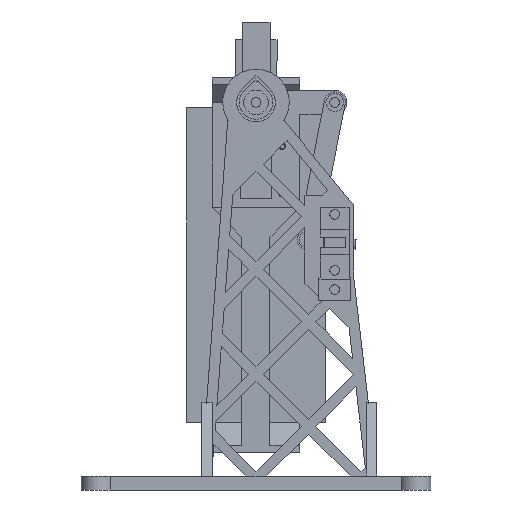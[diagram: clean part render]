
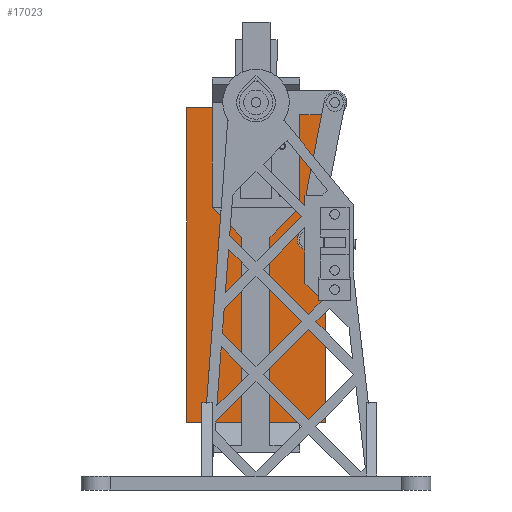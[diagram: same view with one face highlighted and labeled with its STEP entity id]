
A CAD part, front view. The second image highlights one B-rep face of the part: STEP entity #17023.
In plain terms, the highlighted planar face has unit normal (0, -1, 0).
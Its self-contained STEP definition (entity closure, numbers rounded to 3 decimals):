
#16807 = EDGE_CURVE('',#16808,#16810,#16812,.T.);
#16808 = VERTEX_POINT('',#16809);
#16809 = CARTESIAN_POINT('',(-39.545,35.5,38.566));
#16810 = VERTEX_POINT('',#16811);
#16811 = CARTESIAN_POINT('',(-39.501,35.5,218.566));
#16812 = SURFACE_CURVE('',#16813,(#16817,#16829),.PCURVE_S1.);
#16813 = LINE('',#16814,#16815);
#16814 = CARTESIAN_POINT('',(-39.545,35.5,38.566));
#16815 = VECTOR('',#16816,1.);
#16816 = DIRECTION('',(0.,0.,1.));
#16817 = PCURVE('',#16818,#16823);
#16818 = PLANE('',#16819);
#16819 = AXIS2_PLACEMENT_3D('',#16820,#16821,#16822);
#16820 = CARTESIAN_POINT('',(-39.545,35.5,38.566));
#16821 = DIRECTION('',(1.,0.,0.));
#16822 = DIRECTION('',(0.,0.,1.));
#16823 = DEFINITIONAL_REPRESENTATION('',(#16824),#16828);
#16824 = LINE('',#16825,#16826);
#16825 = CARTESIAN_POINT('',(0.,0.));
#16826 = VECTOR('',#16827,1.);
#16827 = DIRECTION('',(1.,0.));
#16828 = ( GEOMETRIC_REPRESENTATION_CONTEXT(2) 
PARAMETRIC_REPRESENTATION_CONTEXT() REPRESENTATION_CONTEXT('2D SPACE',''
  ) );
#16829 = PCURVE('',#16830,#16835);
#16830 = PLANE('',#16831);
#16831 = AXIS2_PLACEMENT_3D('',#16832,#16833,#16834);
#16832 = CARTESIAN_POINT('',(-39.545,35.5,38.566));
#16833 = DIRECTION('',(0.,1.,0.));
#16834 = DIRECTION('',(0.,0.,1.));
#16835 = DEFINITIONAL_REPRESENTATION('',(#16836),#16840);
#16836 = LINE('',#16837,#16838);
#16837 = CARTESIAN_POINT('',(0.,0.));
#16838 = VECTOR('',#16839,1.);
#16839 = DIRECTION('',(1.,0.));
#16840 = ( GEOMETRIC_REPRESENTATION_CONTEXT(2) 
PARAMETRIC_REPRESENTATION_CONTEXT() REPRESENTATION_CONTEXT('2D SPACE',''
  ) );
#16858 = PLANE('',#16859);
#16859 = AXIS2_PLACEMENT_3D('',#16860,#16861,#16862);
#16860 = CARTESIAN_POINT('',(-39.545,35.5,38.566));
#16861 = DIRECTION('',(0.,0.,1.));
#16862 = DIRECTION('',(1.,0.,0.));
#16912 = PLANE('',#16913);
#16913 = AXIS2_PLACEMENT_3D('',#16914,#16915,#16916);
#16914 = CARTESIAN_POINT('',(-39.501,35.5,218.566));
#16915 = DIRECTION('',(0.,0.,1.));
#16916 = DIRECTION('',(1.,0.,0.));
#16927 = EDGE_CURVE('',#16928,#16930,#16932,.T.);
#16928 = VERTEX_POINT('',#16929);
#16929 = CARTESIAN_POINT('',(39.455,35.5,38.547));
#16930 = VERTEX_POINT('',#16931);
#16931 = CARTESIAN_POINT('',(39.499,35.5,218.547));
#16932 = SURFACE_CURVE('',#16933,(#16937,#16949),.PCURVE_S1.);
#16933 = LINE('',#16934,#16935);
#16934 = CARTESIAN_POINT('',(39.455,35.5,38.547));
#16935 = VECTOR('',#16936,1.);
#16936 = DIRECTION('',(0.,0.,1.));
#16937 = PCURVE('',#16938,#16943);
#16938 = PLANE('',#16939);
#16939 = AXIS2_PLACEMENT_3D('',#16940,#16941,#16942);
#16940 = CARTESIAN_POINT('',(39.455,35.5,38.547));
#16941 = DIRECTION('',(1.,0.,0.));
#16942 = DIRECTION('',(0.,0.,1.));
#16943 = DEFINITIONAL_REPRESENTATION('',(#16944),#16948);
#16944 = LINE('',#16945,#16946);
#16945 = CARTESIAN_POINT('',(0.,0.));
#16946 = VECTOR('',#16947,1.);
#16947 = DIRECTION('',(1.,0.));
#16948 = ( GEOMETRIC_REPRESENTATION_CONTEXT(2) 
PARAMETRIC_REPRESENTATION_CONTEXT() REPRESENTATION_CONTEXT('2D SPACE',''
  ) );
#16949 = PCURVE('',#16830,#16950);
#16950 = DEFINITIONAL_REPRESENTATION('',(#16951),#16955);
#16951 = LINE('',#16952,#16953);
#16952 = CARTESIAN_POINT('',(0.,79.));
#16953 = VECTOR('',#16954,1.);
#16954 = DIRECTION('',(1.,0.));
#16955 = ( GEOMETRIC_REPRESENTATION_CONTEXT(2) 
PARAMETRIC_REPRESENTATION_CONTEXT() REPRESENTATION_CONTEXT('2D SPACE',''
  ) );
#17023 = ADVANCED_FACE('',(#17024),#16830,.F.);
#17024 = FACE_BOUND('',#17025,.F.);
#17025 = EDGE_LOOP('',(#17026,#17047,#17048,#17069));
#17026 = ORIENTED_EDGE('',*,*,#17027,.F.);
#17027 = EDGE_CURVE('',#16808,#16928,#17028,.T.);
#17028 = SURFACE_CURVE('',#17029,(#17033,#17040),.PCURVE_S1.);
#17029 = LINE('',#17030,#17031);
#17030 = CARTESIAN_POINT('',(-39.545,35.5,38.566));
#17031 = VECTOR('',#17032,1.);
#17032 = DIRECTION('',(1.,0.,0.));
#17033 = PCURVE('',#16830,#17034);
#17034 = DEFINITIONAL_REPRESENTATION('',(#17035),#17039);
#17035 = LINE('',#17036,#17037);
#17036 = CARTESIAN_POINT('',(0.,0.));
#17037 = VECTOR('',#17038,1.);
#17038 = DIRECTION('',(0.,1.));
#17039 = ( GEOMETRIC_REPRESENTATION_CONTEXT(2) 
PARAMETRIC_REPRESENTATION_CONTEXT() REPRESENTATION_CONTEXT('2D SPACE',''
  ) );
#17040 = PCURVE('',#16858,#17041);
#17041 = DEFINITIONAL_REPRESENTATION('',(#17042),#17046);
#17042 = LINE('',#17043,#17044);
#17043 = CARTESIAN_POINT('',(0.,0.));
#17044 = VECTOR('',#17045,1.);
#17045 = DIRECTION('',(1.,0.));
#17046 = ( GEOMETRIC_REPRESENTATION_CONTEXT(2) 
PARAMETRIC_REPRESENTATION_CONTEXT() REPRESENTATION_CONTEXT('2D SPACE',''
  ) );
#17047 = ORIENTED_EDGE('',*,*,#16807,.T.);
#17048 = ORIENTED_EDGE('',*,*,#17049,.T.);
#17049 = EDGE_CURVE('',#16810,#16930,#17050,.T.);
#17050 = SURFACE_CURVE('',#17051,(#17055,#17062),.PCURVE_S1.);
#17051 = LINE('',#17052,#17053);
#17052 = CARTESIAN_POINT('',(-39.501,35.5,218.566));
#17053 = VECTOR('',#17054,1.);
#17054 = DIRECTION('',(1.,0.,0.));
#17055 = PCURVE('',#16830,#17056);
#17056 = DEFINITIONAL_REPRESENTATION('',(#17057),#17061);
#17057 = LINE('',#17058,#17059);
#17058 = CARTESIAN_POINT('',(180.,0.));
#17059 = VECTOR('',#17060,1.);
#17060 = DIRECTION('',(0.,1.));
#17061 = ( GEOMETRIC_REPRESENTATION_CONTEXT(2) 
PARAMETRIC_REPRESENTATION_CONTEXT() REPRESENTATION_CONTEXT('2D SPACE',''
  ) );
#17062 = PCURVE('',#16912,#17063);
#17063 = DEFINITIONAL_REPRESENTATION('',(#17064),#17068);
#17064 = LINE('',#17065,#17066);
#17065 = CARTESIAN_POINT('',(0.,0.));
#17066 = VECTOR('',#17067,1.);
#17067 = DIRECTION('',(1.,0.));
#17068 = ( GEOMETRIC_REPRESENTATION_CONTEXT(2) 
PARAMETRIC_REPRESENTATION_CONTEXT() REPRESENTATION_CONTEXT('2D SPACE',''
  ) );
#17069 = ORIENTED_EDGE('',*,*,#16927,.F.);
